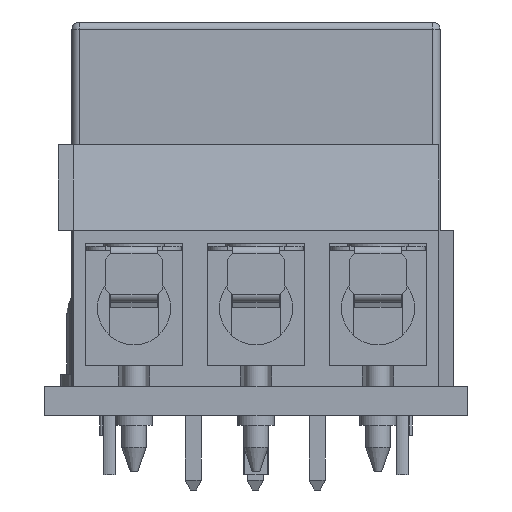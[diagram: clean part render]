
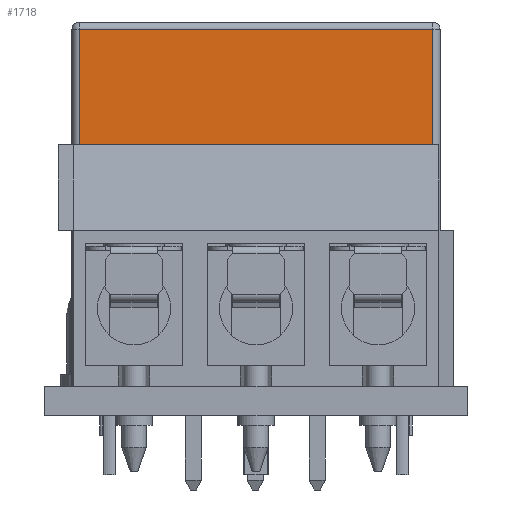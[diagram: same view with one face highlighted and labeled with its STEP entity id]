
A CAD part, left-side view. The second image highlights one B-rep face of the part: STEP entity #1718.
In plain terms, the highlighted planar face has unit normal (-1, 0, 0).
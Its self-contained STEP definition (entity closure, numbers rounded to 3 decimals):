
#1062=PLANE('',#12820);
#1718=ADVANCED_FACE('',(#2443),#1062,.F.);
#2443=FACE_OUTER_BOUND('',#3215,.T.);
#3215=EDGE_LOOP('',(#8788,#8789,#8790,#8791));
#4444=LINE('',#20305,#5676);
#4447=LINE('',#20312,#5679);
#4449=LINE('',#20320,#5681);
#4465=LINE('',#20363,#5697);
#5676=VECTOR('',#15960,1.);
#5679=VECTOR('',#15967,1.);
#5681=VECTOR('',#15977,1.);
#5697=VECTOR('',#16031,1.);
#8788=ORIENTED_EDGE('',*,*,#11497,.T.);
#8789=ORIENTED_EDGE('',*,*,#11467,.F.);
#8790=ORIENTED_EDGE('',*,*,#11463,.F.);
#8791=ORIENTED_EDGE('',*,*,#11471,.T.);
#9902=VERTEX_POINT('',#20288);
#9907=VERTEX_POINT('',#20304);
#9908=VERTEX_POINT('',#20309);
#9911=VERTEX_POINT('',#20319);
#11463=EDGE_CURVE('',#9907,#9902,#4444,.T.);
#11467=EDGE_CURVE('',#9902,#9908,#4447,.T.);
#11471=EDGE_CURVE('',#9907,#9911,#4449,.T.);
#11497=EDGE_CURVE('',#9911,#9908,#4465,.T.);
#12820=AXIS2_PLACEMENT_3D('',#20364,#16032,#16033);
#15960=DIRECTION('',(0.,-1.,0.));
#15967=DIRECTION('',(0.,0.,-1.));
#15977=DIRECTION('',(0.,0.,-1.));
#16031=DIRECTION('',(0.,-1.,0.));
#16032=DIRECTION('',(1.,0.,0.));
#16033=DIRECTION('',(0.,0.,-1.));
#20288=CARTESIAN_POINT('',(10.753,1.415,15.827));
#20304=CARTESIAN_POINT('',(10.753,15.885,15.827));
#20305=CARTESIAN_POINT('',(10.753,16.194,15.827));
#20309=CARTESIAN_POINT('',(10.753,1.415,1.2));
#20312=CARTESIAN_POINT('',(10.753,1.415,16.135));
#20319=CARTESIAN_POINT('',(10.753,15.885,1.2));
#20320=CARTESIAN_POINT('',(10.753,15.885,16.135));
#20363=CARTESIAN_POINT('',(10.753,16.194,1.2));
#20364=CARTESIAN_POINT('',(10.753,16.194,16.135));
